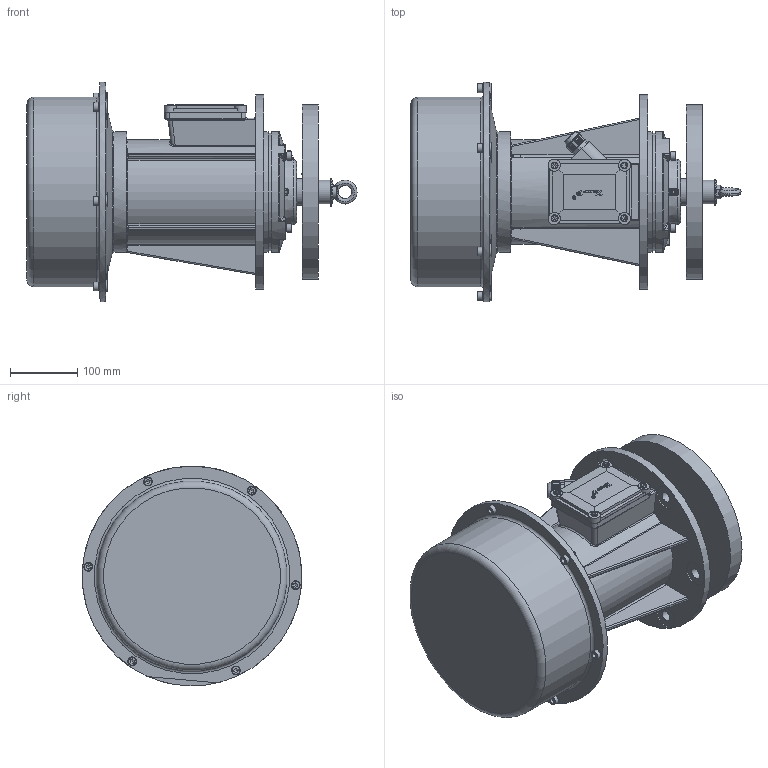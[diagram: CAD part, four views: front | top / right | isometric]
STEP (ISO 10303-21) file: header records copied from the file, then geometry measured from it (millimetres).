
FILE_DESCRIPTION(/* description */ (''),/* implementation_level */ '2;1');
FILE_NAME(/* name */ 'FVM 1550x15-EC.stp',/* time_stamp */ '2026-09-09T13:33:25+03:00',/* author */ ('PC'),/* organization */ (''),/* preprocessor_version */ 'ST-DEVELOPER v20.1',/* originating_system */ 'Autodesk Inventor 2026',/* authorisation */ '');
FILE_SCHEMA (('AUTOMOTIVE_DESIGN { 1 0 10303 214 3 1 1 }'));
Products named in the file (1): FVM 1550x15-EC
Bounding box: 491.3 x 326.81 x 326.96 mm (x, y, z)
Volume: 15863481.9 mm3; surface area: 804764.4 mm2
Topology: 1 solids, 58 shells, 1882 faces, 4922 edges, 3180 vertices
Faces by surface type: plane 1069, cylinder 377, bspline 182, cone 160, torus 84, sphere 10
Full cylindrical faces by diameter (mm): 2.5 x2, 3 x2, 4.134 x1, 4.917 x5, 6 x4, 6.4 x4, 6.647 x13, 8 x14, 8.4 x14, 8.5 x8, 9 x6, 10 x4, 10.2 x4, 12.987 x4, 13 x10, 14 x1, 15 x1, 16.5 x6, 20 x1, 22 x1, 33 x1, 35 x2, 36.5 x6, 39.9 x1, 40.5 x1, 90 x1, 165 x2, 174 x2, 175 x1, 180 x3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
Entity records: 64078 total; most frequent: CARTESIAN_POINT 17537, ORIENTED_EDGE 9748, DIRECTION 8642, EDGE_CURVE 4874, VERTEX_POINT 3180, AXIS2_PLACEMENT_3D 2943, LINE 2756, VECTOR 2756
